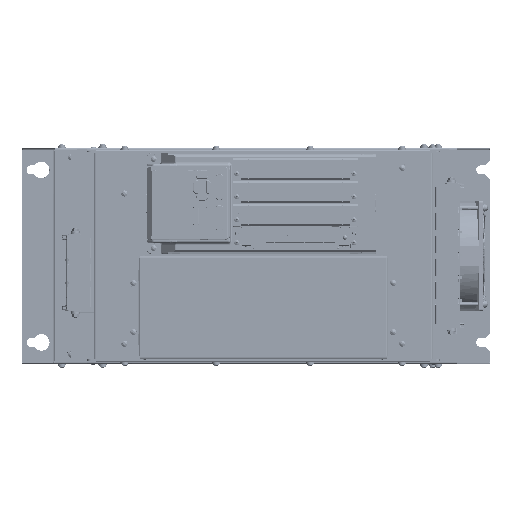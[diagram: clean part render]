
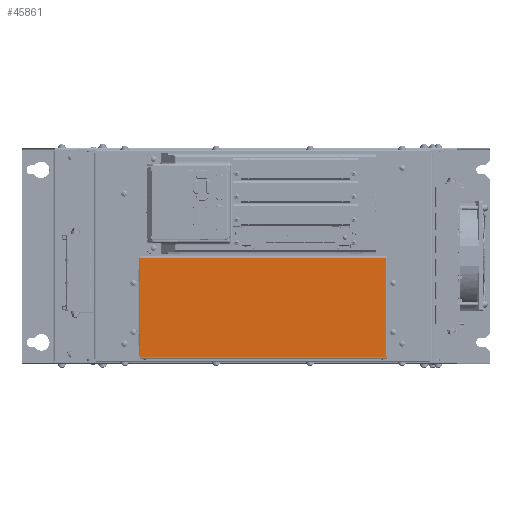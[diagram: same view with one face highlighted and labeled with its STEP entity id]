
A CAD part, top view. The second image highlights one B-rep face of the part: STEP entity #45861.
In plain terms, the highlighted planar face has unit normal (0, 0, 1).
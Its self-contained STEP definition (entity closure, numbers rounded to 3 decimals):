
#9529=PLANE('',#367280);
#45861=ADVANCED_FACE('',(#61402),#9529,.T.);
#61402=FACE_OUTER_BOUND('',#78199,.T.);
#78199=EDGE_LOOP('',(#143751,#143752,#143753,#143754,#143755,#143756,#143757,
#143758,#143759,#143760,#143761,#143762));
#143751=ORIENTED_EDGE('',*,*,#216629,.T.);
#143752=ORIENTED_EDGE('',*,*,#216639,.T.);
#143753=ORIENTED_EDGE('',*,*,#216638,.T.);
#143754=ORIENTED_EDGE('',*,*,#216637,.T.);
#143755=ORIENTED_EDGE('',*,*,#216628,.F.);
#143756=ORIENTED_EDGE('',*,*,#216636,.T.);
#143757=ORIENTED_EDGE('',*,*,#216635,.T.);
#143758=ORIENTED_EDGE('',*,*,#216634,.T.);
#143759=ORIENTED_EDGE('',*,*,#216633,.T.);
#143760=ORIENTED_EDGE('',*,*,#216632,.T.);
#143761=ORIENTED_EDGE('',*,*,#216631,.T.);
#143762=ORIENTED_EDGE('',*,*,#216630,.T.);
#216628=EDGE_CURVE('',#341044,#341045,#285648,.T.);
#216629=EDGE_CURVE('',#341046,#341047,#285649,.T.);
#216630=EDGE_CURVE('',#341048,#341046,#285650,.T.);
#216631=EDGE_CURVE('',#341049,#341048,#285651,.T.);
#216632=EDGE_CURVE('',#341050,#341049,#285652,.T.);
#216633=EDGE_CURVE('',#341051,#341050,#285653,.T.);
#216634=EDGE_CURVE('',#341052,#341051,#285654,.T.);
#216635=EDGE_CURVE('',#341053,#341052,#285655,.T.);
#216636=EDGE_CURVE('',#341044,#341053,#285656,.T.);
#216637=EDGE_CURVE('',#341054,#341045,#285657,.T.);
#216638=EDGE_CURVE('',#341055,#341054,#285658,.T.);
#216639=EDGE_CURVE('',#341047,#341055,#285659,.T.);
#285648=B_SPLINE_CURVE_WITH_KNOTS('',1,(#694010,#694011),.UNSPECIFIED.,
 .F.,.F.,(2,2),(0.,268.8),.UNSPECIFIED.);
#285649=B_SPLINE_CURVE_WITH_KNOTS('',1,(#694012,#694013),.UNSPECIFIED.,
 .F.,.F.,(2,2),(-0.5,0.),.UNSPECIFIED.);
#285650=B_SPLINE_CURVE_WITH_KNOTS('',1,(#694014,#694015),.UNSPECIFIED.,
 .F.,.F.,(2,2),(-0.7,0.),.UNSPECIFIED.);
#285651=B_SPLINE_CURVE_WITH_KNOTS('',1,(#694016,#694017),.UNSPECIFIED.,
 .F.,.F.,(2,2),(-268.8,0.),.UNSPECIFIED.);
#285652=B_SPLINE_CURVE_WITH_KNOTS('',1,(#694018,#694019),.UNSPECIFIED.,
 .F.,.F.,(2,2),(-0.7,0.),.UNSPECIFIED.);
#285653=B_SPLINE_CURVE_WITH_KNOTS('',1,(#694020,#694021),.UNSPECIFIED.,
 .F.,.F.,(2,2),(0.,0.5),.UNSPECIFIED.);
#285654=B_SPLINE_CURVE_WITH_KNOTS('',1,(#694022,#694023),.UNSPECIFIED.,
 .F.,.F.,(2,2),(-106.6,0.),.UNSPECIFIED.);
#285655=B_SPLINE_CURVE_WITH_KNOTS('',1,(#694024,#694025),.UNSPECIFIED.,
 .F.,.F.,(2,2),(-0.5,0.),.UNSPECIFIED.);
#285656=B_SPLINE_CURVE_WITH_KNOTS('',1,(#694026,#694027),.UNSPECIFIED.,
 .F.,.F.,(2,2),(-0.7,0.),.UNSPECIFIED.);
#285657=B_SPLINE_CURVE_WITH_KNOTS('',1,(#694028,#694029),.UNSPECIFIED.,
 .F.,.F.,(2,2),(-0.7,0.),.UNSPECIFIED.);
#285658=B_SPLINE_CURVE_WITH_KNOTS('',1,(#694030,#694031),.UNSPECIFIED.,
 .F.,.F.,(2,2),(0.,0.5),.UNSPECIFIED.);
#285659=B_SPLINE_CURVE_WITH_KNOTS('',1,(#694032,#694033),.UNSPECIFIED.,
 .F.,.F.,(2,2),(-106.6,0.),.UNSPECIFIED.);
#341044=VERTEX_POINT('',#693998);
#341045=VERTEX_POINT('',#693999);
#341046=VERTEX_POINT('',#694000);
#341047=VERTEX_POINT('',#694001);
#341048=VERTEX_POINT('',#694002);
#341049=VERTEX_POINT('',#694003);
#341050=VERTEX_POINT('',#694004);
#341051=VERTEX_POINT('',#694005);
#341052=VERTEX_POINT('',#694006);
#341053=VERTEX_POINT('',#694007);
#341054=VERTEX_POINT('',#694008);
#341055=VERTEX_POINT('',#694009);
#367280=AXIS2_PLACEMENT_3D('',#693997,#374880,$);
#374880=DIRECTION('',(0.,0.,1.));
#693997=CARTESIAN_POINT('',(-161.682,-121.502,133.304));
#693998=CARTESIAN_POINT('',(-134.4,-2.3,133.304));
#693999=CARTESIAN_POINT('',(134.4,-2.3,133.304));
#694000=CARTESIAN_POINT('',(134.4,-109.6,133.304));
#694001=CARTESIAN_POINT('',(133.9,-109.6,133.304));
#694002=CARTESIAN_POINT('',(134.4,-110.3,133.304));
#694003=CARTESIAN_POINT('',(-134.4,-110.3,133.304));
#694004=CARTESIAN_POINT('',(-134.4,-109.6,133.304));
#694005=CARTESIAN_POINT('',(-133.9,-109.6,133.304));
#694006=CARTESIAN_POINT('',(-133.9,-3.,133.304));
#694007=CARTESIAN_POINT('',(-134.4,-3.,133.304));
#694008=CARTESIAN_POINT('',(134.4,-3.,133.304));
#694009=CARTESIAN_POINT('',(133.9,-3.,133.304));
#694010=CARTESIAN_POINT('',(-134.4,-2.3,133.304));
#694011=CARTESIAN_POINT('',(134.4,-2.3,133.304));
#694012=CARTESIAN_POINT('',(134.4,-109.6,133.304));
#694013=CARTESIAN_POINT('',(133.9,-109.6,133.304));
#694014=CARTESIAN_POINT('',(134.4,-110.3,133.304));
#694015=CARTESIAN_POINT('',(134.4,-109.6,133.304));
#694016=CARTESIAN_POINT('',(-134.4,-110.3,133.304));
#694017=CARTESIAN_POINT('',(134.4,-110.3,133.304));
#694018=CARTESIAN_POINT('',(-134.4,-109.6,133.304));
#694019=CARTESIAN_POINT('',(-134.4,-110.3,133.304));
#694020=CARTESIAN_POINT('',(-133.9,-109.6,133.304));
#694021=CARTESIAN_POINT('',(-134.4,-109.6,133.304));
#694022=CARTESIAN_POINT('',(-133.9,-3.,133.304));
#694023=CARTESIAN_POINT('',(-133.9,-109.6,133.304));
#694024=CARTESIAN_POINT('',(-134.4,-3.,133.304));
#694025=CARTESIAN_POINT('',(-133.9,-3.,133.304));
#694026=CARTESIAN_POINT('',(-134.4,-2.3,133.304));
#694027=CARTESIAN_POINT('',(-134.4,-3.,133.304));
#694028=CARTESIAN_POINT('',(134.4,-3.,133.304));
#694029=CARTESIAN_POINT('',(134.4,-2.3,133.304));
#694030=CARTESIAN_POINT('',(133.9,-3.,133.304));
#694031=CARTESIAN_POINT('',(134.4,-3.,133.304));
#694032=CARTESIAN_POINT('',(133.9,-109.6,133.304));
#694033=CARTESIAN_POINT('',(133.9,-3.,133.304));
